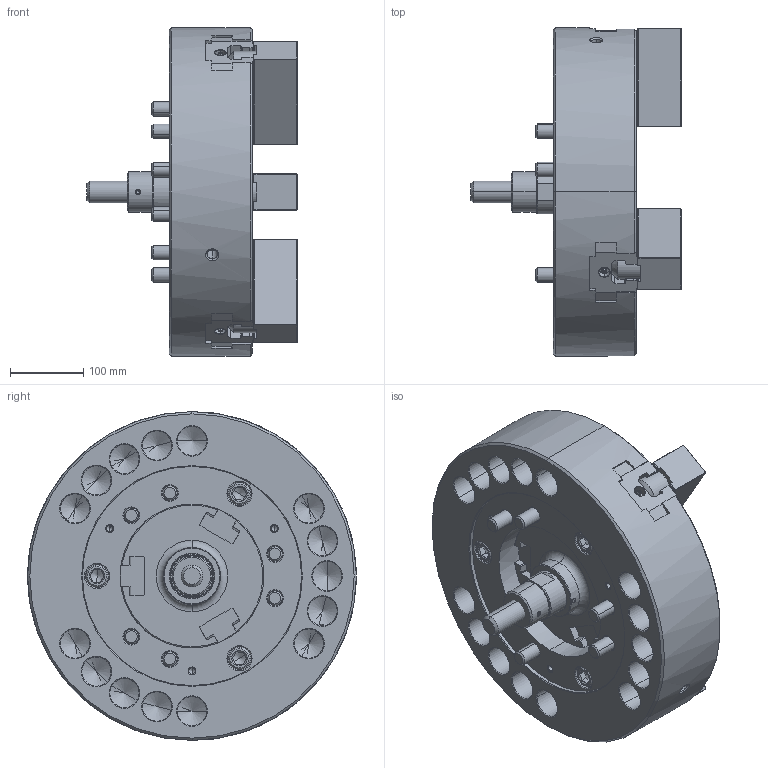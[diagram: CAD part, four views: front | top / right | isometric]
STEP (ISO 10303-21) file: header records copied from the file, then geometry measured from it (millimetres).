
FILE_DESCRIPTION (( 'STEP AP214' ), '1' );
FILE_NAME ('DT1_N-18_OUTSIDE_VIEW_HUL.STEP', '2026-03-13T00:50:18', ( '' ), ( '' ), 'SwSTEP 2.0', 'SolidWorks 2022', '' );
FILE_SCHEMA (( 'AUTOMOTIVE_DESIGN' ));
Length unit declared in the file: millimetre
Products named in the file (11): DT1_N-18_SOFTJAW^DT1_N-18; DT1_N-18_DN^DT1_N-18; DT1_N-18_COVER^DT1_N-18; DT1_N-18_M6x12^DT1_N-18; DT1_N-18_M20x115^DT1_N-18; Copy of 61P321208^DT1_N-18; DT1_N-18_OUTSIDE_VIEW_HUL; DT1_N-18_BASE^DT1_N-18; DT1_N-18_TNUT^DT1_N-18; DT1_N-18_DRAWSCREW^DT1_N-18; DT1_N-18_M20x55^DT1_N-18
Assembly tree (29 placements, depth 2):
  DT1_N-18_OUTSIDE_VIEW_HUL
    DT1_N-18_SOFTJAW^DT1_N-18  x3
    DT1_N-18_TNUT^DT1_N-18  x6
    DT1_N-18_COVER^DT1_N-18
    DT1_N-18_DRAWSCREW^DT1_N-18
    Copy of 61P321208^DT1_N-18
    DT1_N-18_DN^DT1_N-18
    DT1_N-18_BASE^DT1_N-18
    DT1_N-18_M6x12^DT1_N-18  x3
    DT1_N-18_M20x115^DT1_N-18  x6
    DT1_N-18_M20x55^DT1_N-18  x6
Bounding box: 287.56 x 450 x 450 mm (x, y, z)
Volume: 16690954.3 mm3; surface area: 1224371.7 mm2
Topology: 29 solids, 35 shells, 7051 faces, 19888 edges, 13053 vertices
Faces by surface type: plane 5015, cylinder 868, bspline 599, cone 501, torus 62, sphere 6
Entity records: 200610 total; most frequent: CARTESIAN_POINT 64112, ORIENTED_EDGE 31016, DIRECTION 23838, EDGE_CURVE 15508, VECTOR 11822, LINE 11822, VERTEX_POINT 10219, AXIS2_PLACEMENT_3D 6008
